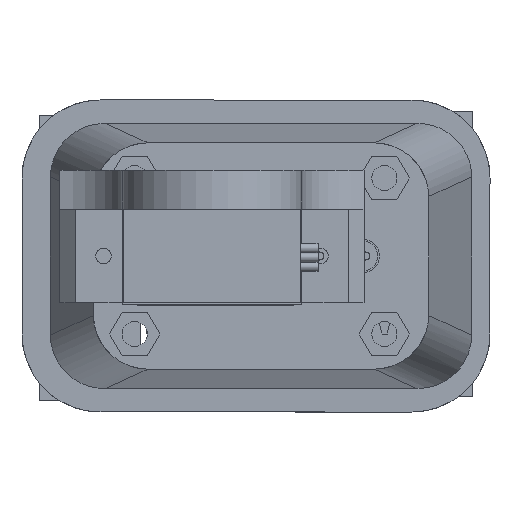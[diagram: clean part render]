
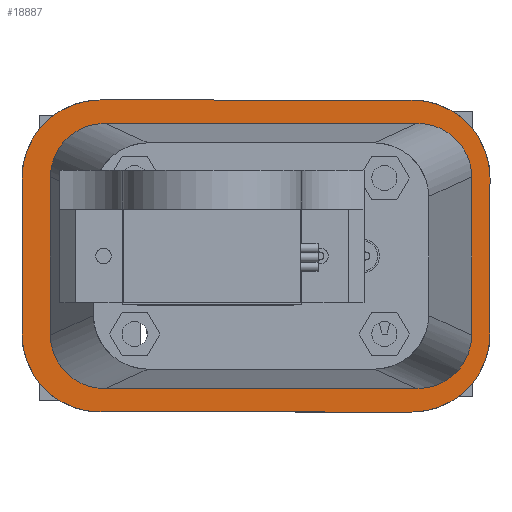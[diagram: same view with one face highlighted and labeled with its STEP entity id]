
A CAD part, front view. The second image highlights one B-rep face of the part: STEP entity #18887.
In plain terms, the highlighted planar face has unit normal (0, -1, 0).
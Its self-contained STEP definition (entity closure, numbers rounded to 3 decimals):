
#362=FACE_BOUND('',#2487,.T.);
#363=FACE_BOUND('',#2488,.T.);
#364=FACE_BOUND('',#2489,.T.);
#365=FACE_BOUND('',#2490,.T.);
#366=FACE_BOUND('',#2491,.T.);
#901=PLANE('',#20279);
#1537=FACE_OUTER_BOUND('',#2486,.T.);
#2486=EDGE_LOOP('',(#13175,#13176,#13177,#13178,#13179,#13180,#13181,#13182));
#2487=EDGE_LOOP('',(#13183));
#2488=EDGE_LOOP('',(#13184));
#2489=EDGE_LOOP('',(#13185));
#2490=EDGE_LOOP('',(#13186));
#2491=EDGE_LOOP('',(#13187));
#3576=LINE('',#26744,#5485);
#3613=LINE('',#27059,#5522);
#3653=LINE('',#27182,#5562);
#3654=LINE('',#27187,#5563);
#5485=VECTOR('',#21755,10.);
#5522=VECTOR('',#21930,10.);
#5562=VECTOR('',#22072,10.);
#5563=VECTOR('',#22077,10.);
#7390=CIRCLE('',#20186,11.5);
#7434=CIRCLE('',#20266,1.6);
#7436=CIRCLE('',#20270,1.6);
#7438=CIRCLE('',#20274,1.6);
#7440=CIRCLE('',#20278,1.6);
#7441=CIRCLE('',#20280,10.);
#7442=CIRCLE('',#20281,10.);
#7443=CIRCLE('',#20282,10.);
#7444=CIRCLE('',#20283,10.);
#7971=VERTEX_POINT('',#26741);
#7972=VERTEX_POINT('',#26743);
#7995=VERTEX_POINT('',#26842);
#8046=VERTEX_POINT('',#27056);
#8047=VERTEX_POINT('',#27058);
#8071=VERTEX_POINT('',#27154);
#8073=VERTEX_POINT('',#27161);
#8075=VERTEX_POINT('',#27168);
#8077=VERTEX_POINT('',#27175);
#8078=VERTEX_POINT('',#27179);
#8079=VERTEX_POINT('',#27181);
#8080=VERTEX_POINT('',#27184);
#8081=VERTEX_POINT('',#27186);
#10000=EDGE_CURVE('',#7972,#7971,#3576,.T.);
#10031=EDGE_CURVE('',#7995,#7995,#7390,.T.);
#10098=EDGE_CURVE('',#8047,#8046,#3613,.T.);
#10150=EDGE_CURVE('',#8071,#8071,#7434,.T.);
#10153=EDGE_CURVE('',#8073,#8073,#7436,.T.);
#10156=EDGE_CURVE('',#8075,#8075,#7438,.T.);
#10159=EDGE_CURVE('',#8077,#8077,#7440,.T.);
#10160=EDGE_CURVE('',#8046,#8078,#7441,.T.);
#10161=EDGE_CURVE('',#8078,#8079,#3653,.T.);
#10162=EDGE_CURVE('',#8079,#7972,#7442,.T.);
#10163=EDGE_CURVE('',#7971,#8080,#7443,.T.);
#10164=EDGE_CURVE('',#8080,#8081,#3654,.T.);
#10165=EDGE_CURVE('',#8081,#8047,#7444,.T.);
#13175=ORIENTED_EDGE('',*,*,#10098,.T.);
#13176=ORIENTED_EDGE('',*,*,#10160,.T.);
#13177=ORIENTED_EDGE('',*,*,#10161,.T.);
#13178=ORIENTED_EDGE('',*,*,#10162,.T.);
#13179=ORIENTED_EDGE('',*,*,#10000,.T.);
#13180=ORIENTED_EDGE('',*,*,#10163,.T.);
#13181=ORIENTED_EDGE('',*,*,#10164,.T.);
#13182=ORIENTED_EDGE('',*,*,#10165,.T.);
#13183=ORIENTED_EDGE('',*,*,#10150,.T.);
#13184=ORIENTED_EDGE('',*,*,#10153,.T.);
#13185=ORIENTED_EDGE('',*,*,#10156,.T.);
#13186=ORIENTED_EDGE('',*,*,#10159,.T.);
#13187=ORIENTED_EDGE('',*,*,#10031,.T.);
#18887=ADVANCED_FACE('',(#1537,#362,#363,#364,#365,#366),#901,.T.);
#20186=AXIS2_PLACEMENT_3D('',#26843,#21816,#21817);
#20266=AXIS2_PLACEMENT_3D('',#27156,#22039,#22040);
#20270=AXIS2_PLACEMENT_3D('',#27163,#22048,#22049);
#20274=AXIS2_PLACEMENT_3D('',#27170,#22057,#22058);
#20278=AXIS2_PLACEMENT_3D('',#27177,#22066,#22067);
#20279=AXIS2_PLACEMENT_3D('',#27178,#22068,#22069);
#20280=AXIS2_PLACEMENT_3D('',#27180,#22070,#22071);
#20281=AXIS2_PLACEMENT_3D('',#27183,#22073,#22074);
#20282=AXIS2_PLACEMENT_3D('',#27185,#22075,#22076);
#20283=AXIS2_PLACEMENT_3D('',#27188,#22078,#22079);
#21755=DIRECTION('',(0.,0.,1.));
#21816=DIRECTION('center_axis',(0.,1.,0.));
#21817=DIRECTION('ref_axis',(-1.,0.,0.));
#21930=DIRECTION('',(0.,0.,-1.));
#22039=DIRECTION('center_axis',(0.,1.,0.));
#22040=DIRECTION('ref_axis',(1.,0.,0.));
#22048=DIRECTION('center_axis',(0.,1.,0.));
#22049=DIRECTION('ref_axis',(1.,0.,0.));
#22057=DIRECTION('center_axis',(0.,1.,0.));
#22058=DIRECTION('ref_axis',(1.,0.,0.));
#22066=DIRECTION('center_axis',(0.,1.,0.));
#22067=DIRECTION('ref_axis',(1.,0.,0.));
#22068=DIRECTION('center_axis',(0.,-1.,0.));
#22069=DIRECTION('ref_axis',(0.,0.,-1.));
#22070=DIRECTION('center_axis',(0.,-1.,0.));
#22071=DIRECTION('ref_axis',(-1.,0.,0.));
#22072=DIRECTION('',(1.,0.,0.));
#22073=DIRECTION('center_axis',(0.,-1.,0.));
#22074=DIRECTION('ref_axis',(0.,0.,-1.));
#22075=DIRECTION('center_axis',(0.,-1.,0.));
#22076=DIRECTION('ref_axis',(1.,0.,0.));
#22077=DIRECTION('',(-1.,0.,0.));
#22078=DIRECTION('center_axis',(0.,-1.,0.));
#22079=DIRECTION('ref_axis',(0.,0.,1.));
#26741=CARTESIAN_POINT('',(60.,-3.,30.));
#26743=CARTESIAN_POINT('',(60.,-3.,10.));
#26744=CARTESIAN_POINT('',(60.,-3.,10.));
#26842=CARTESIAN_POINT('',(18.5,-3.,20.));
#26843=CARTESIAN_POINT('Origin',(30.,-3.,20.));
#27056=CARTESIAN_POINT('',(0.,-3.,10.));
#27058=CARTESIAN_POINT('',(0.,-3.,30.));
#27059=CARTESIAN_POINT('',(0.,-3.,30.));
#27154=CARTESIAN_POINT('',(12.851,-3.,10.));
#27156=CARTESIAN_POINT('Origin',(14.451,-3.,10.));
#27161=CARTESIAN_POINT('',(12.851,-3.,30.));
#27163=CARTESIAN_POINT('Origin',(14.451,-3.,30.));
#27168=CARTESIAN_POINT('',(44.851,-3.,10.));
#27170=CARTESIAN_POINT('Origin',(46.451,-3.,10.));
#27175=CARTESIAN_POINT('',(44.851,-3.,30.));
#27177=CARTESIAN_POINT('Origin',(46.451,-3.,30.));
#27178=CARTESIAN_POINT('Origin',(30.,-3.,20.));
#27179=CARTESIAN_POINT('',(10.,-3.,0.));
#27180=CARTESIAN_POINT('Origin',(10.,-3.,10.));
#27181=CARTESIAN_POINT('',(50.,-3.,0.));
#27182=CARTESIAN_POINT('',(10.,-3.,0.));
#27183=CARTESIAN_POINT('Origin',(50.,-3.,10.));
#27184=CARTESIAN_POINT('',(50.,-3.,40.));
#27185=CARTESIAN_POINT('Origin',(50.,-3.,30.));
#27186=CARTESIAN_POINT('',(10.,-3.,40.));
#27187=CARTESIAN_POINT('',(50.,-3.,40.));
#27188=CARTESIAN_POINT('Origin',(10.,-3.,30.));
